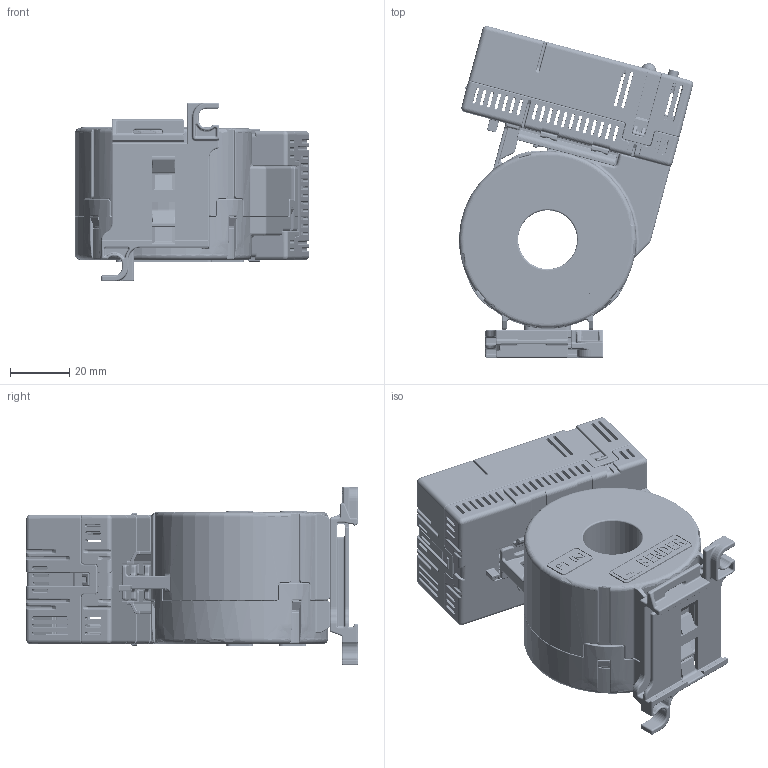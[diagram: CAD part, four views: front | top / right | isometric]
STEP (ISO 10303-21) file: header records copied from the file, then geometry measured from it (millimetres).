
FILE_DESCRIPTION (( 'STEP AP214' ), '1' );
FILE_NAME ('CTUB10x-CTBC20x.STEP', '2019-04-12T09:03:43', ( 'Administrator' ), ( '' ), 'SwSTEP 2.0', 'SolidWorks 2019', '' );
FILE_SCHEMA (( 'AUTOMOTIVE_DESIGN' ));
Length unit declared in the file: millimetre
Products named in the file (1): CTUB10x-CTBC20x
Bounding box: 79.23 x 112.34 x 60.5 mm (x, y, z)
Volume: 59366.5 mm3; surface area: 84408.6 mm2
Topology: 8 solids, 10 shells, 9545 faces, 23741 edges, 14047 vertices
Faces by surface type: cylinder 2722, plane 2629, bspline 2401, torus 1040, cone 405, sphere 348
Entity records: 451829 total; most frequent: CARTESIAN_POINT 139288, ORIENTED_EDGE 46654, DIRECTION 39304, EDGE_CURVE 23327, AXIS2_PLACEMENT_3D 14370, VERTEX_POINT 14015, LINE 10564, VECTOR 10564
